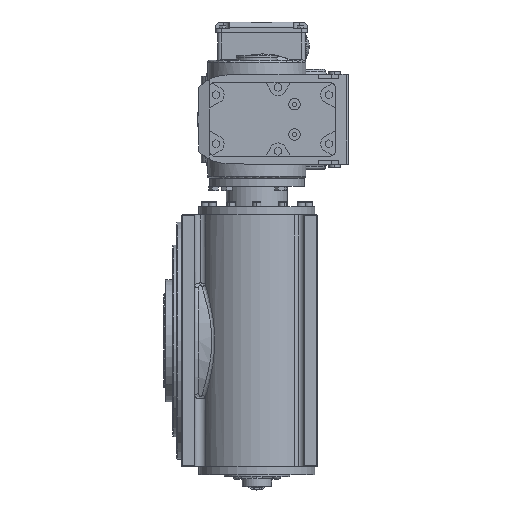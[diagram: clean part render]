
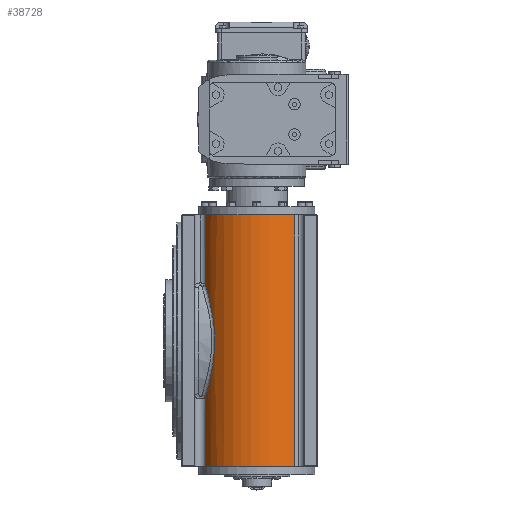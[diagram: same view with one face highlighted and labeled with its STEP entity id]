
A CAD part, left-side view. The second image highlights one B-rep face of the part: STEP entity #38728.
In plain terms, the highlighted cylindrical face has radius 71 mm (diameter 142 mm), a partial arc.
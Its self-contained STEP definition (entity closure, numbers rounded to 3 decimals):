
#1669 = CARTESIAN_POINT ( 'NONE',  ( -133.018, 134.012, 58.125 ) ) ;
#2564 = CARTESIAN_POINT ( 'NONE',  ( -140.598, 128.429, -32.922 ) ) ;
#3055 = FACE_OUTER_BOUND ( 'NONE', #58574, .T. ) ;
#3452 = CARTESIAN_POINT ( 'NONE',  ( -142.826, 126.476, -19.641 ) ) ;
#3929 = DIRECTION ( 'NONE',  ( 0., 0., 1. ) ) ;
#5297 = EDGE_CURVE ( 'NONE', #76230, #75514, #84351, .T. ) ;
#7869 = CARTESIAN_POINT ( 'NONE',  ( -128.109, 136.808, 500000. ) ) ;
#8032 = AXIS2_PLACEMENT_3D ( 'NONE', #65943, #3929, #59109 ) ;
#8234 = CARTESIAN_POINT ( 'NONE',  ( -95., 74., -154. ) ) ;
#9313 = CARTESIAN_POINT ( 'NONE',  ( -143.692, 125.681, -12.164 ) ) ;
#9979 = DIRECTION ( 'NONE',  ( 0., 0., 1. ) ) ;
#10001 = VERTEX_POINT ( 'NONE', #25595 ) ;
#10786 = EDGE_CURVE ( 'NONE', #58265, #10001, #11263, .T. ) ;
#11263 = B_SPLINE_CURVE_WITH_KNOTS ( 'NONE', 3,
 ( #85887, #63664, #1669, #36115, #86342, #71370, #43317, #17006, #44637, #64991, #57323, #51812, #22928, #64546, #56885, #72270, #78228, #37884, #9313, #3452, #31079, #17452, #29320, #16585, #2564, #50458, #84561, #70914, #85439, #23374 ),
 .UNSPECIFIED., .F., .F.,
 ( 4, 2, 2, 2, 2, 2, 2, 2, 2, 2, 2, 2, 2, 2, 4 ),
 ( 0., 0.018, 0.023, 0.027, 0.036, 0.055, 0.059, 0.064, 0.073, 0.091, 0.095, 0.1, 0.109, 0.127, 0.145 ),
 .UNSPECIFIED. ) ;
#11769 = CARTESIAN_POINT ( 'NONE',  ( -148.721, 27.577, -154. ) ) ;
#12728 = CIRCLE ( 'NONE', #17070, 71. ) ;
#13939 = CARTESIAN_POINT ( 'NONE',  ( -148.721, 27.577, -154. ) ) ;
#16585 = CARTESIAN_POINT ( 'NONE',  ( -141.192, 127.924, -30.015 ) ) ;
#17006 = CARTESIAN_POINT ( 'NONE',  ( -138.57, 130.069, 41.275 ) ) ;
#17070 = AXIS2_PLACEMENT_3D ( 'NONE', #8234, #9979, #79317 ) ;
#17452 = CARTESIAN_POINT ( 'NONE',  ( -142.199, 127.041, -24.119 ) ) ;
#18127 = EDGE_CURVE ( 'NONE', #37634, #75514, #33933, .T. ) ;
#18425 = ORIENTED_EDGE ( 'NONE', *, *, #5297, .F. ) ;
#22921 = DIRECTION ( 'NONE',  ( 1., 0., 0. ) ) ;
#22928 = CARTESIAN_POINT ( 'NONE',  ( -143.351, 125.993, 14.878 ) ) ;
#23374 = CARTESIAN_POINT ( 'NONE',  ( -128.109, 136.808, -68.859 ) ) ;
#25494 = CARTESIAN_POINT ( 'NONE',  ( -128.109, 136.808, 154. ) ) ;
#25595 = CARTESIAN_POINT ( 'NONE',  ( -128.109, 136.808, -68.859 ) ) ;
#29320 = CARTESIAN_POINT ( 'NONE',  ( -141.962, 127.251, -25.6 ) ) ;
#30199 = VERTEX_POINT ( 'NONE', #39948 ) ;
#30503 = LINE ( 'NONE', #7869, #34796 ) ;
#31079 = CARTESIAN_POINT ( 'NONE',  ( -142.631, 126.653, -21.138 ) ) ;
#31658 = EDGE_CURVE ( 'NONE', #58265, #76230, #44301, .T. ) ;
#33933 = LINE ( 'NONE', #13939, #49698 ) ;
#34796 = VECTOR ( 'NONE', #43186, 1000. ) ;
#36115 = CARTESIAN_POINT ( 'NONE',  ( -135.5, 132.319, 51.157 ) ) ;
#36528 = ORIENTED_EDGE ( 'NONE', *, *, #31658, .F. ) ;
#37634 = VERTEX_POINT ( 'NONE', #11769 ) ;
#37884 = CARTESIAN_POINT ( 'NONE',  ( -144.04, 125.343, -6.17 ) ) ;
#38728 = ADVANCED_FACE ( 'NONE', ( #3055 ), #45118, .T. ) ;
#39824 = CARTESIAN_POINT ( 'NONE',  ( -128.109, 136.808, 68.859 ) ) ;
#39948 = CARTESIAN_POINT ( 'NONE',  ( -128.109, 136.808, -154. ) ) ;
#43186 = DIRECTION ( 'NONE',  ( 0., 0., -1. ) ) ;
#43317 = CARTESIAN_POINT ( 'NONE',  ( -137.325, 131.008, 45.529 ) ) ;
#44301 = LINE ( 'NONE', #65074, #81241 ) ;
#44637 = CARTESIAN_POINT ( 'NONE',  ( -139.32, 129.475, 38.415 ) ) ;
#45118 = CYLINDRICAL_SURFACE ( 'NONE', #8032, 71. ) ;
#45197 = ORIENTED_EDGE ( 'NONE', *, *, #60248, .T. ) ;
#49698 = VECTOR ( 'NONE', #61475, 1000. ) ;
#50458 = CARTESIAN_POINT ( 'NONE',  ( -138.584, 130.076, -41.542 ) ) ;
#51805 = CARTESIAN_POINT ( 'NONE',  ( -95., 74., 154. ) ) ;
#51812 = CARTESIAN_POINT ( 'NONE',  ( -143.2, 126.132, 16.387 ) ) ;
#52543 = EDGE_CURVE ( 'NONE', #10001, #30199, #30503, .T. ) ;
#56885 = CARTESIAN_POINT ( 'NONE',  ( -143.713, 125.653, 10.36 ) ) ;
#57323 = CARTESIAN_POINT ( 'NONE',  ( -142.345, 126.918, 23.884 ) ) ;
#58265 = VERTEX_POINT ( 'NONE', #39824 ) ;
#58574 = EDGE_LOOP ( 'NONE', ( #36528, #72235, #59149, #45197, #65558, #18425 ) ) ;
#59109 = DIRECTION ( 'NONE',  ( 1., 0., 0. ) ) ;
#59149 = ORIENTED_EDGE ( 'NONE', *, *, #52543, .T. ) ;
#60248 = EDGE_CURVE ( 'NONE', #30199, #37634, #12728, .T. ) ;
#61475 = DIRECTION ( 'NONE',  ( 0., 0., 1. ) ) ;
#63664 = CARTESIAN_POINT ( 'NONE',  ( -130.725, 135.429, 63.555 ) ) ;
#64055 = AXIS2_PLACEMENT_3D ( 'NONE', #51805, #84994, #22921 ) ;
#64546 = CARTESIAN_POINT ( 'NONE',  ( -143.607, 125.753, 11.865 ) ) ;
#64991 = CARTESIAN_POINT ( 'NONE',  ( -141.327, 127.831, 29.758 ) ) ;
#65074 = CARTESIAN_POINT ( 'NONE',  ( -128.109, 136.808, -500000. ) ) ;
#65558 = ORIENTED_EDGE ( 'NONE', *, *, #18127, .T. ) ;
#65943 = CARTESIAN_POINT ( 'NONE',  ( -95., 74., -154. ) ) ;
#70914 = CARTESIAN_POINT ( 'NONE',  ( -132.999, 134.023, -58.167 ) ) ;
#71370 = CARTESIAN_POINT ( 'NONE',  ( -136.889, 131.329, 46.942 ) ) ;
#72235 = ORIENTED_EDGE ( 'NONE', *, *, #10786, .T. ) ;
#72270 = CARTESIAN_POINT ( 'NONE',  ( -143.967, 125.413, 5.846 ) ) ;
#72986 = CARTESIAN_POINT ( 'NONE',  ( -148.721, 27.577, 154. ) ) ;
#75514 = VERTEX_POINT ( 'NONE', #72986 ) ;
#76230 = VERTEX_POINT ( 'NONE', #25494 ) ;
#78228 = CARTESIAN_POINT ( 'NONE',  ( -144.049, 125.334, 2.839 ) ) ;
#79317 = DIRECTION ( 'NONE',  ( 1., 0., 0. ) ) ;
#81241 = VECTOR ( 'NONE', #87321, 1000. ) ;
#84351 = CIRCLE ( 'NONE', #64055, 71. ) ;
#84561 = CARTESIAN_POINT ( 'NONE',  ( -136.93, 131.346, -47.157 ) ) ;
#84994 = DIRECTION ( 'NONE',  ( 0., 0., 1. ) ) ;
#85439 = CARTESIAN_POINT ( 'NONE',  ( -130.722, 135.43, -63.561 ) ) ;
#85887 = CARTESIAN_POINT ( 'NONE',  ( -128.109, 136.808, 68.859 ) ) ;
#86342 = CARTESIAN_POINT ( 'NONE',  ( -135.977, 131.984, 49.755 ) ) ;
#87321 = DIRECTION ( 'NONE',  ( 0., 0., 1. ) ) ;
